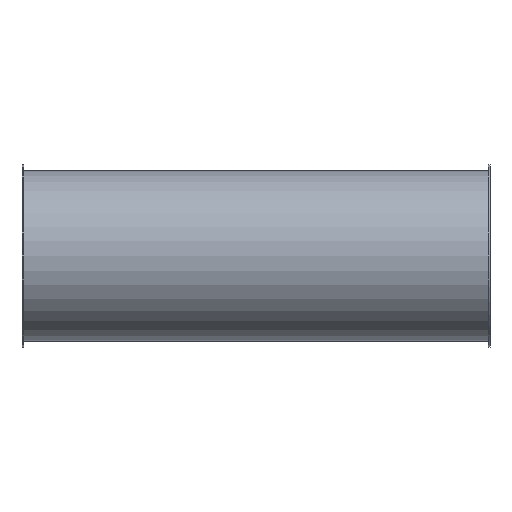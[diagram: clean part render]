
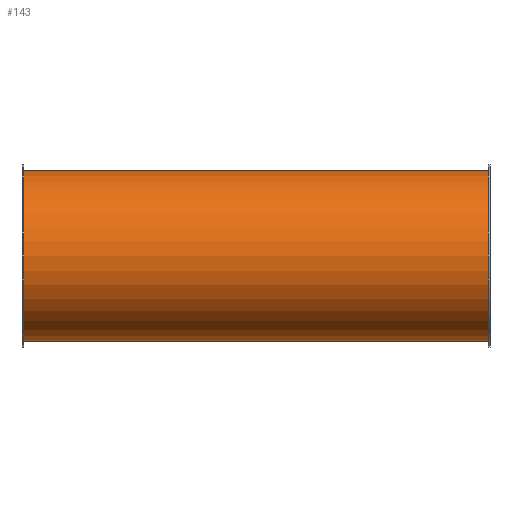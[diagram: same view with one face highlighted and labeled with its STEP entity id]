
A CAD part, front view. The second image highlights one B-rep face of the part: STEP entity #143.
In plain terms, the highlighted cylindrical face has radius 89 mm (diameter 178 mm), a full revolution.
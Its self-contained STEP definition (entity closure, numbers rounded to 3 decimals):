
#112=CARTESIAN_POINT('',(454.119,2.817,0.0));
#113=VERTEX_POINT('',#112);
#114=CARTESIAN_POINT('',(454.119,91.817,0.0));
#115=DIRECTION('',(-1.0,0.0,0.0));
#116=DIRECTION('',(0.0,-1.0,0.0));
#117=AXIS2_PLACEMENT_3D('',#114,#115,#116);
#118=CIRCLE('',#117,89.);
#119=EDGE_CURVE('',#113,#113,#118,.T.);
#124=CARTESIAN_POINT('',(212.119,91.817,0.0));
#125=DIRECTION('',(-1.0,0.,0.0));
#126=DIRECTION('',(0.0,-1.0,0.0));
#127=AXIS2_PLACEMENT_3D('',#124,#125,#126);
#128=CYLINDRICAL_SURFACE('',#127,89.);
#129=CARTESIAN_POINT('',(-29.881,2.817,0.0));
#130=VERTEX_POINT('',#129);
#131=CARTESIAN_POINT('',(-29.881,91.817,0.0));
#132=DIRECTION('',(-1.0,0.0,0.0));
#133=DIRECTION('',(0.0,-1.0,0.0));
#134=AXIS2_PLACEMENT_3D('',#131,#132,#133);
#135=CIRCLE('',#134,89.);
#136=EDGE_CURVE('',#130,#130,#135,.T.);
#137=ORIENTED_EDGE('',*,*,#136,.F.);
#138=EDGE_LOOP('',(#137));
#139=FACE_OUTER_BOUND('',#138,.T.);
#140=ORIENTED_EDGE('',*,*,#119,.T.);
#141=EDGE_LOOP('',(#140));
#142=FACE_BOUND('',#141,.T.);
#143=ADVANCED_FACE('',(#139,#142),#128,.T.);
